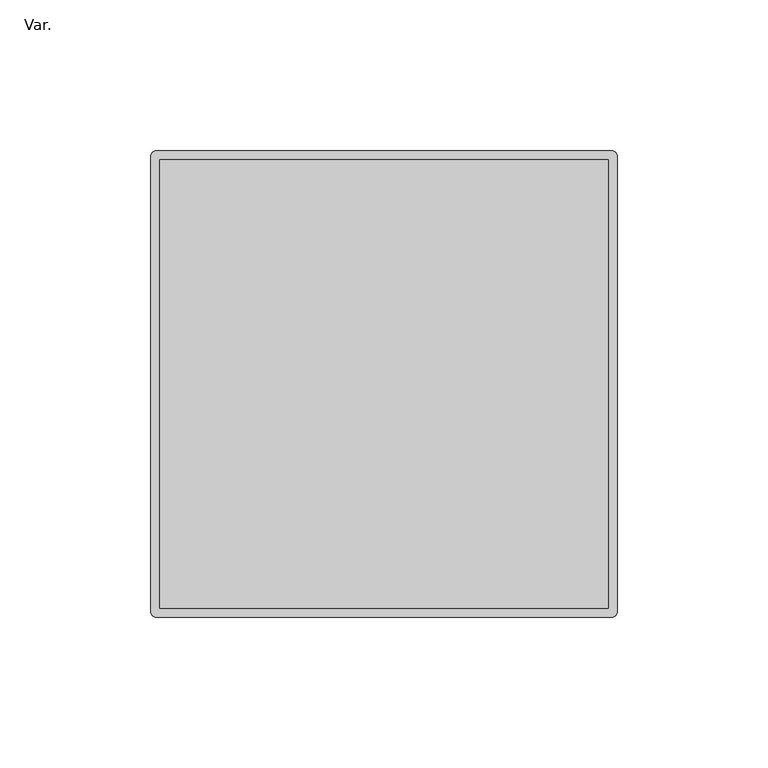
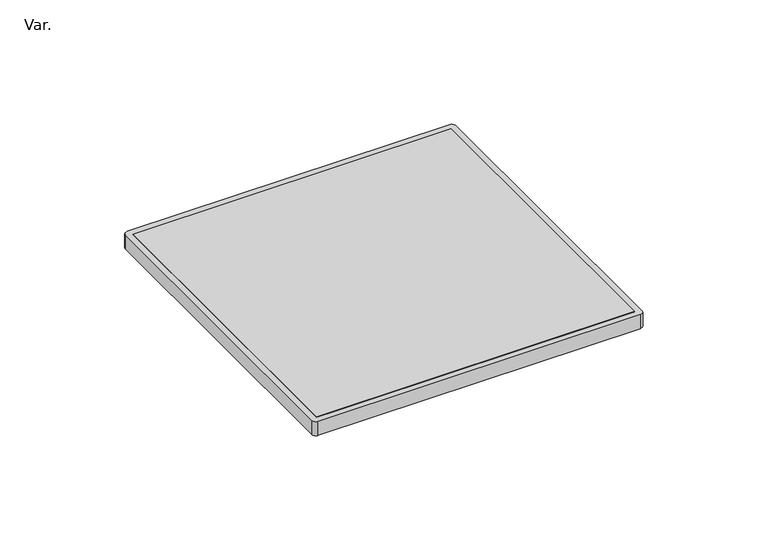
"""IFC4 building model written with IfcOpenShell, lengths in millimetres: pipe fitting geometry, Z_Amanco Esgoto Caixa Sif DN 150  SQ GRID(Nested) : Var.."""

import ifcopenshell
import ifcopenshell.guid

model = None  # the IFC model being written
_history = None  # IfcOwnerHistory: only IFC2X3 demands one
_inside = {}  # id of a spatial element -> (the spatial element, [elements in it])
_under = {}  # id of a project, library or spatial element -> (it, [spatial elements below it])
_declared = {}  # id of a project -> (the project, [libraries it declares])
_typed = {}  # id of a type object -> (the type object, [elements of that type])
_made_of = {}  # id of a material, layer set ... -> (it, [elements and type objects made of it])


def new_model(schema):
    """Start an empty IFC model of exactly this schema.

    Asked for "IFC4X3", IfcOpenShell would pick the latest addendum, in which some entities
    have other attributes; the version numbers below select the first issue.
    IFC2X3 requires an IfcOwnerHistory on every rooted entity: one is made here for all.
    """
    global model, _history
    if schema == "IFC4X3":
        model = ifcopenshell.file(schema_version=(4, 3, 0, 0))
    else:
        model = ifcopenshell.file(schema=schema)
    _inside.clear()
    _under.clear()
    _declared.clear()
    _typed.clear()
    _made_of.clear()
    _history = None
    if model.schema == "IFC2X3":
        org = make("IfcOrganization", Name="unknown")
        user = make(
            "IfcPersonAndOrganization",
            ThePerson=make("IfcPerson", FamilyName="unknown"),
            TheOrganization=org,
        )
        app = make(
            "IfcApplication",
            ApplicationDeveloper=org,
            Version="unknown",
            ApplicationFullName="unknown",
            ApplicationIdentifier="unknown",
        )
        _history = make(
            "IfcOwnerHistory",
            OwningUser=user,
            OwningApplication=app,
            ChangeAction="ADDED",
            CreationDate=0,
        )
    return model


def make(cls, **values):
    """One entity of the class cls with the attributes given. An attribute that is None is left unset."""
    return model.create_entity(
        cls, **{name: value for name, value in values.items() if value is not None}
    )


def rooted(cls, **values):
    """An entity with a GlobalId (a new one), such as an element, a storey or a relation."""
    return make(cls, GlobalId=ifcopenshell.guid.new(), OwnerHistory=_history, **values)


def si_unit(unit_type, name, prefix=None):
    """IfcSIUnit, for example si_unit("LENGTHUNIT", "METRE", prefix="MILLI")."""
    return make("IfcSIUnit", UnitType=unit_type, Prefix=prefix, Name=name)


def assignment(units):
    """IfcUnitAssignment: the units of a project."""
    return None if units is None else make("IfcUnitAssignment", Units=units)


def point(xyz):
    """IfcCartesianPoint."""
    return None if xyz is None else make("IfcCartesianPoint", Coordinates=xyz)


def direction(xyz):
    """IfcDirection."""
    return None if xyz is None else make("IfcDirection", DirectionRatios=xyz)


def frame(location, z_axis=None, x_axis=None):
    """IfcAxis2Placement3D, a coordinate frame: its origin and axes. An axis left out is left unset."""
    return make(
        "IfcAxis2Placement3D",
        Location=point(location),
        Axis=direction(z_axis),
        RefDirection=direction(x_axis),
    )


def frame_2d(location, x_axis=None):
    """IfcAxis2Placement2D, a coordinate frame in the plane: its origin and x axis."""
    return make(
        "IfcAxis2Placement2D", Location=point(location), RefDirection=direction(x_axis)
    )


def origin():
    """The frame at (0, 0, 0) with its axes left unset."""
    return frame((0.0, 0.0, 0.0))


def place(relative_to, where):
    """IfcLocalPlacement: puts the frame where relative to a parent placement (None: the world)."""
    return make(
        "IfcLocalPlacement", PlacementRelTo=relative_to, RelativePlacement=where
    )


def context(
    kind, dimensions, precision=None, world=None, true_north=None, identifier=None
):
    """IfcGeometricRepresentationContext, for example the 3D "Model" context."""
    return make(
        "IfcGeometricRepresentationContext",
        ContextIdentifier=identifier,
        ContextType=kind,
        CoordinateSpaceDimension=dimensions,
        Precision=precision,
        WorldCoordinateSystem=world,
        TrueNorth=true_north,
    )


def project(units=None, contexts=None):
    """IfcProject with its units and contexts."""
    return rooted(
        "IfcProject",
        Name="project",
        RepresentationContexts=contexts,
        UnitsInContext=assignment(units),
    )


def spatial(cls, under=None, at=None, **own):
    """A site, building, storey or space (cls), placed at a placement, below another one or the project."""
    s = rooted(cls, ObjectPlacement=at, **own)
    if under is not None:
        _under.setdefault(under.id(), (under, []))[1].append(s)
    return s


def polyline(points):
    """IfcPolyline through the points."""
    return make("IfcPolyline", Points=[point(p) for p in points])


def circle_curve(where, radius):
    """IfcCircle in the frame where."""
    return make("IfcCircle", Position=where, Radius=radius)


def trimmed(basis, trim1, trim2, sense, master):
    """IfcTrimmedCurve: the piece of a basis curve between two trims."""
    return make(
        "IfcTrimmedCurve",
        BasisCurve=basis,
        Trim1=trim1,
        Trim2=trim2,
        SenseAgreement=sense,
        MasterRepresentation=master,
    )


def segment(curve, same_sense, transition):
    """IfcCompositeCurveSegment."""
    return make(
        "IfcCompositeCurveSegment",
        Transition=transition,
        SameSense=same_sense,
        ParentCurve=curve,
    )


def composite_curve(segments, self_intersect=None):
    """IfcCompositeCurve: segments joined end to end."""
    return make("IfcCompositeCurve", Segments=segments, SelfIntersect=self_intersect)


def outline(outer, holes=None, kind="AREA"):
    """IfcArbitraryClosedProfileDef: a profile drawn as a closed curve; with holes, ...WithVoids."""
    if holes is None:
        return make("IfcArbitraryClosedProfileDef", ProfileType=kind, OuterCurve=outer)
    return make(
        "IfcArbitraryProfileDefWithVoids",
        ProfileType=kind,
        OuterCurve=outer,
        InnerCurves=holes,
    )


def extrude(swept, where, along, depth):
    """IfcExtrudedAreaSolid: the profile swept, set in the frame where, extruded along a direction by depth."""
    return make(
        "IfcExtrudedAreaSolid",
        SweptArea=swept,
        Position=where,
        ExtrudedDirection=direction(along),
        Depth=depth,
    )


def shape(context_of_items, identifier, shape_type, items):
    """IfcShapeRepresentation: the items that make up one representation, for example the "Body"."""
    return make(
        "IfcShapeRepresentation",
        ContextOfItems=context_of_items,
        RepresentationIdentifier=identifier,
        RepresentationType=shape_type,
        Items=items,
    )


def source(mapping_origin, context_of_items, identifier, shape_type, items):
    """IfcRepresentationMap: a shape defined once, which mapped items show again and again."""
    return make(
        "IfcRepresentationMap",
        MappingOrigin=mapping_origin,
        MappedRepresentation=shape(context_of_items, identifier, shape_type, items),
    )


def transform(
    local_origin,
    x_axis=None,
    y_axis=None,
    z_axis=None,
    scale=None,
    scale2=None,
    scale3=None,
    uniform=True,
):
    """IfcCartesianTransformationOperator3D, or its non-uniform kind. x_axis, y_axis, z_axis: its Axis1, 2, 3."""
    if uniform:
        return make(
            "IfcCartesianTransformationOperator3D",
            Axis1=direction(x_axis),
            Axis2=direction(y_axis),
            LocalOrigin=point(local_origin),
            Scale=scale,
            Axis3=direction(z_axis),
        )
    return make(
        "IfcCartesianTransformationOperator3DnonUniform",
        Axis1=direction(x_axis),
        Axis2=direction(y_axis),
        LocalOrigin=point(local_origin),
        Scale=scale,
        Axis3=direction(z_axis),
        Scale2=scale2,
        Scale3=scale3,
    )


def mapped(mapping_source, mapping_target):
    """IfcMappedItem: shows the shape of a source again, moved by a transform."""
    return make(
        "IfcMappedItem", MappingSource=mapping_source, MappingTarget=mapping_target
    )


def made_of(thing, what):
    """Note that an element or type object is made of a material, layer set ...; save() writes the relation."""
    if what is not None:
        _made_of.setdefault(what.id(), (what, []))[1].append(thing)
    return thing


def element(
    cls,
    number,
    at=None,
    inside=None,
    cuts=None,
    type_object=None,
    material=None,
    context=None,
    identifier="Body",
    shape_type=None,
    held_by="IfcProductDefinitionShape",
    body=None,
    shapes=None,
    **own,
):
    """One element of the class cls, such as IfcWall. Its Tag is "e" and its number.

    at: its placement. inside: the storey or other place that contains it. cuts: it is an
    opening in that element (IfcRelVoidsElement). A single representation is given by context,
    identifier, shape_type and body (its items); several are given by shapes. held_by: the class
    of the entity that holds the representations. save() writes the other relations.
    """
    e = rooted(cls, Tag="e%d" % number, ObjectPlacement=at, **own)
    if body is not None:
        shapes = [shape(context, identifier, shape_type, body)]
    if shapes is not None:
        e.Representation = make(held_by, Representations=shapes)
    if inside is not None:
        _inside.setdefault(inside.id(), (inside, []))[1].append(e)
    if cuts is not None:
        rooted(
            "IfcRelVoidsElement", RelatingBuildingElement=cuts, RelatedOpeningElement=e
        )
    if type_object is not None:
        _typed.setdefault(type_object.id(), (type_object, []))[1].append(e)
    return made_of(e, material)


def aggregate(whole, parts):
    """IfcRelAggregates: a whole, such as a stair, and the parts it consists of."""
    return rooted("IfcRelAggregates", RelatingObject=whole, RelatedObjects=parts)


def save(model, path):
    """Write the relations noted so far, then the file.

    IfcRelAggregates (storeys below a building ...), IfcRelContainedInSpatialStructure (elements
    in a storey), IfcRelDefinesByType, IfcRelAssociatesMaterial and IfcRelDeclares: one each for
    every whole, place, type object, material and project.
    """
    for whole, parts in _under.values():
        aggregate(whole, parts)
    for where, things in _inside.values():
        rooted(
            "IfcRelContainedInSpatialStructure",
            RelatedElements=things,
            RelatingStructure=where,
        )
    for kind, things in _typed.values():
        rooted("IfcRelDefinesByType", RelatedObjects=things, RelatingType=kind)
    for what, things in _made_of.values():
        rooted("IfcRelAssociatesMaterial", RelatedObjects=things, RelatingMaterial=what)
    for by, libraries in _declared.values():
        rooted("IfcRelDeclares", RelatingContext=by, RelatedDefinitions=libraries)
    model.write(path)


def var_e55450d1(model_context):
    return source(origin(), model_context, "Body", "SweptSolid", [
        extrude(outline(polyline([(-74.5, -74.5), (-74.5, 74.5), (74.5, 74.5), (74.5, -74.5), (-74.5, -74.5)])), frame((0.0, 0.0, -7.0), z_axis=(0.0, 0.0, 1.0), x_axis=(1.0, 0.0, 0.0)), (0.0, 0.0, 1.0), 7.1),
        extrude(outline(composite_curve([segment(polyline([(-77.5, -75.5), (-77.5, 75.5)]), True, "CONTINUOUS"), segment(trimmed(circle_curve(frame_2d((-75.5, 75.5)), 2.0), [point((-77.5, 75.5))], [point((-75.5, 77.5))], False, "CARTESIAN"), True, "CONTINUOUS"), segment(polyline([(-75.5, 77.5), (75.5, 77.5)]), True, "CONTINUOUS"), segment(trimmed(circle_curve(frame_2d((75.5, 75.5)), 2.0), [point((75.5, 77.5))], [point((77.5, 75.5))], False, "CARTESIAN"), True, "CONTINUOUS"), segment(polyline([(77.5, 75.5), (77.5, -75.5)]), True, "CONTINUOUS"), segment(trimmed(circle_curve(frame_2d((75.5, -75.5)), 2.0), [point((77.5, -75.5))], [point((75.5, -77.5))], False, "CARTESIAN"), True, "CONTINUOUS"), segment(polyline([(75.5, -77.5), (-75.5, -77.5)]), True, "CONTINUOUS"), segment(trimmed(circle_curve(frame_2d((-75.5, -75.5)), 2.0), [point((-75.5, -77.5))], [point((-77.5, -75.5))], False, "CARTESIAN"), True, "CONTINUOUS")], self_intersect=False), holes=[polyline([(74.5, 74.5), (-74.5, 74.5), (-74.5, -74.5), (74.5, -74.5), (74.5, 74.5)])]), frame((0.0, 0.0, -7.0), z_axis=(0.0, 0.0, 1.0), x_axis=(1.0, 0.0, 0.0)), (0.0, 0.0, 1.0), 7.0),
    ])


if __name__ == "__main__":
    model = new_model("IFC4")
    model_context = context("Model", 3, world=origin())
    ifc_project = project(units=[si_unit("LENGTHUNIT", "METRE", prefix="MILLI")], contexts=[model_context])
    site = spatial("IfcSite", under=ifc_project)
    building = spatial("IfcBuilding", under=site)
    placement = place(None, origin())
    var_shape = var_e55450d1(model_context)
    element("IfcPipeFitting", 1, ObjectType="Z_Amanco Esgoto Caixa Sif DN 150  SQ GRID(Nested) : Var.", at=placement, inside=building, context=model_context, shape_type="MappedRepresentation", body=[
        mapped(var_shape, transform((0.0, 0.0, 0.0), x_axis=(1.0, 0.0, 0.0), y_axis=(0.0, 1.0, 0.0), z_axis=(0.0, 0.0, 1.0))),
    ])
    save(model, "model.ifc")
